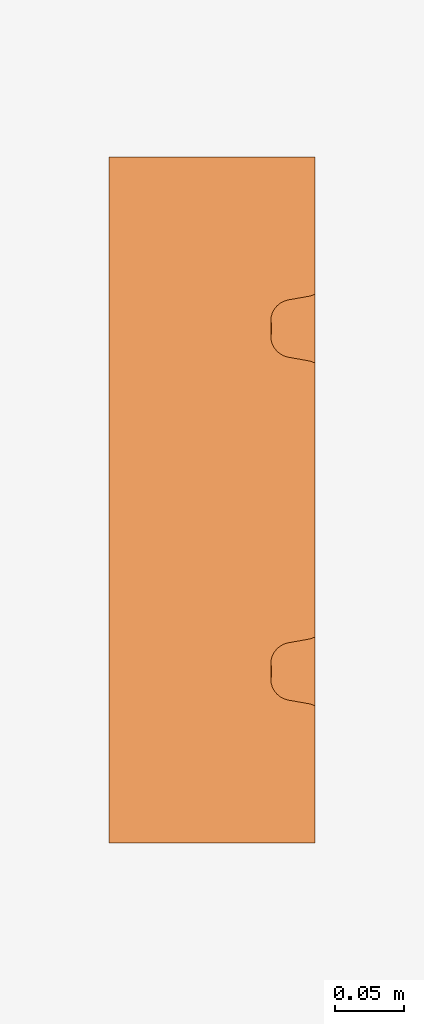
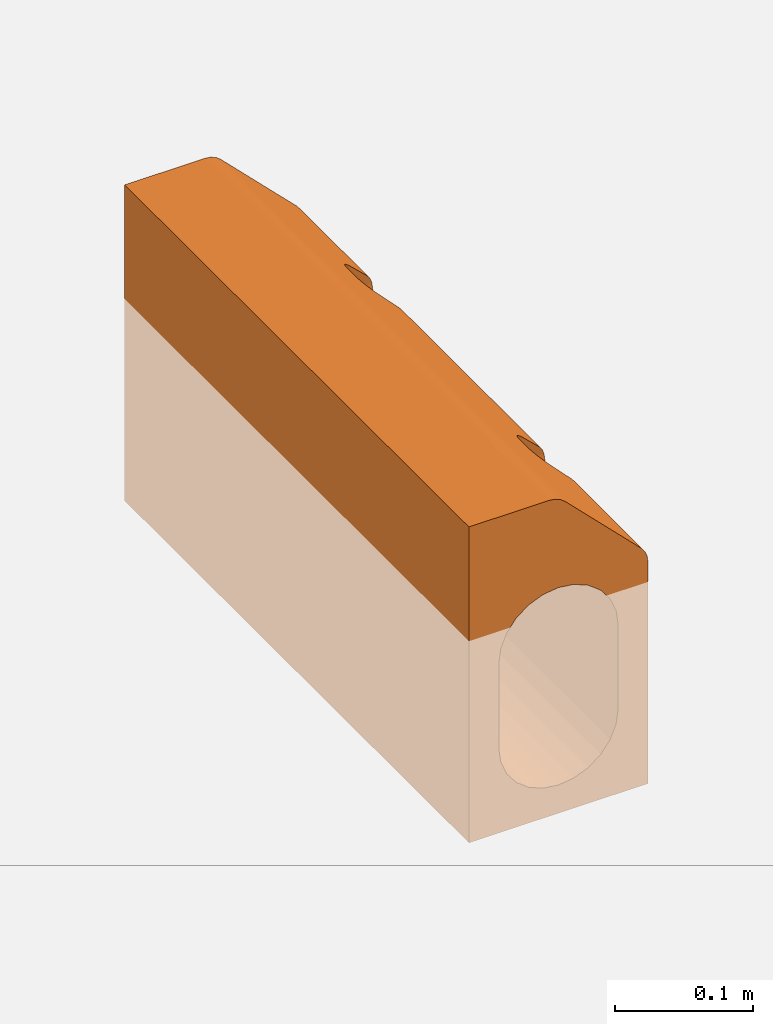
# One storey, part 2 of 2: 1 proxy.
"""IFC2X3 building model written with IfcOpenShell, lengths in millimetres."""

import ifcopenshell
import ifcopenshell.guid

model = None  # the IFC model being written
_history = None  # IfcOwnerHistory: only IFC2X3 demands one
_inside = {}  # id of a spatial element -> (the spatial element, [elements in it])
_under = {}  # id of a project, library or spatial element -> (it, [spatial elements below it])
_declared = {}  # id of a project -> (the project, [libraries it declares])
_typed = {}  # id of a type object -> (the type object, [elements of that type])
_made_of = {}  # id of a material, layer set ... -> (it, [elements and type objects made of it])


def new_model(schema):
    """Start an empty IFC model of exactly this schema.

    Asked for "IFC4X3", IfcOpenShell would pick the latest addendum, in which some entities
    have other attributes; the version numbers below select the first issue.
    IFC2X3 requires an IfcOwnerHistory on every rooted entity: one is made here for all.
    """
    global model, _history
    if schema == "IFC4X3":
        model = ifcopenshell.file(schema_version=(4, 3, 0, 0))
    else:
        model = ifcopenshell.file(schema=schema)
    _inside.clear()
    _under.clear()
    _declared.clear()
    _typed.clear()
    _made_of.clear()
    _history = None
    if model.schema == "IFC2X3":
        org = make("IfcOrganization", Name="unknown")
        user = make(
            "IfcPersonAndOrganization",
            ThePerson=make("IfcPerson", FamilyName="unknown"),
            TheOrganization=org,
        )
        app = make(
            "IfcApplication",
            ApplicationDeveloper=org,
            Version="unknown",
            ApplicationFullName="unknown",
            ApplicationIdentifier="unknown",
        )
        _history = make(
            "IfcOwnerHistory",
            OwningUser=user,
            OwningApplication=app,
            ChangeAction="ADDED",
            CreationDate=0,
        )
    return model


def make(cls, **values):
    """One entity of the class cls with the attributes given. An attribute that is None is left unset."""
    return model.create_entity(
        cls, **{name: value for name, value in values.items() if value is not None}
    )


def entity(cls, *values):
    """Any entity or typed value of the class cls, its attributes in the order of the schema. None: left unset."""
    e = model.create_entity(cls)
    for i, value in enumerate(values):
        if value is not None:
            e[i] = value
    return e


def rooted(cls, **values):
    """An entity with a GlobalId (a new one), such as an element, a storey or a relation."""
    return make(cls, GlobalId=ifcopenshell.guid.new(), OwnerHistory=_history, **values)


def si_unit(unit_type, name, prefix=None):
    """IfcSIUnit, for example si_unit("LENGTHUNIT", "METRE", prefix="MILLI")."""
    return make("IfcSIUnit", UnitType=unit_type, Prefix=prefix, Name=name)


def converted_unit(unit_type, name, factor, base, dimensions=None, offset=None):
    """IfcConversionBasedUnit, such as the inch: factor (a typed value) times the base unit."""
    return make(
        "IfcConversionBasedUnit"
        if offset is None
        else "IfcConversionBasedUnitWithOffset",
        ConversionOffset=offset,
        Dimensions=None
        if dimensions is None
        else entity("IfcDimensionalExponents", *dimensions),
        UnitType=unit_type,
        Name=name,
        ConversionFactor=make(
            "IfcMeasureWithUnit", ValueComponent=factor, UnitComponent=base
        ),
    )


def assignment(units):
    """IfcUnitAssignment: the units of a project."""
    return None if units is None else make("IfcUnitAssignment", Units=units)


def point(xyz):
    """IfcCartesianPoint."""
    return None if xyz is None else make("IfcCartesianPoint", Coordinates=xyz)


def direction(xyz):
    """IfcDirection."""
    return None if xyz is None else make("IfcDirection", DirectionRatios=xyz)


def frame(location, z_axis=None, x_axis=None):
    """IfcAxis2Placement3D, a coordinate frame: its origin and axes. An axis left out is left unset."""
    return make(
        "IfcAxis2Placement3D",
        Location=point(location),
        Axis=direction(z_axis),
        RefDirection=direction(x_axis),
    )


def origin():
    """The frame at (0, 0, 0) with its axes left unset."""
    return frame((0.0, 0.0, 0.0))


def place(relative_to, where):
    """IfcLocalPlacement: puts the frame where relative to a parent placement (None: the world)."""
    return make(
        "IfcLocalPlacement", PlacementRelTo=relative_to, RelativePlacement=where
    )


def context(
    kind, dimensions, precision=None, world=None, true_north=None, identifier=None
):
    """IfcGeometricRepresentationContext, for example the 3D "Model" context."""
    return make(
        "IfcGeometricRepresentationContext",
        ContextIdentifier=identifier,
        ContextType=kind,
        CoordinateSpaceDimension=dimensions,
        Precision=precision,
        WorldCoordinateSystem=world,
        TrueNorth=true_north,
    )


def subcontext(parent, identifier, kind, view, scale=None):
    """IfcGeometricRepresentationSubContext, for example "Body" below "Model"."""
    return make(
        "IfcGeometricRepresentationSubContext",
        ContextIdentifier=identifier,
        ContextType=kind,
        ParentContext=parent,
        TargetScale=scale,
        TargetView=view,
    )


def project(units=None, contexts=None):
    """IfcProject with its units and contexts."""
    return rooted(
        "IfcProject",
        Name="project",
        RepresentationContexts=contexts,
        UnitsInContext=assignment(units),
    )


def spatial(cls, under=None, at=None, **own):
    """A site, building, storey or space (cls), placed at a placement, below another one or the project."""
    s = rooted(cls, ObjectPlacement=at, **own)
    if under is not None:
        _under.setdefault(under.id(), (under, []))[1].append(s)
    return s


def faces_of(points, faces, orient=None, outer=None):
    """IfcFace entities. A face is a list of loops; a loop is a list of indices into points, from 0.

    orient and outer hold one flag for each loop. By default every Orientation is true, the
    first loop of a face is its IfcFaceOuterBound and the others are IfcFaceBound.
    """
    made = []
    for i, loops in enumerate(faces):
        bounds = []
        for j, loop in enumerate(loops):
            is_outer = j == 0 if outer is None else outer[i][j]
            bounds.append(
                make(
                    "IfcFaceOuterBound" if is_outer else "IfcFaceBound",
                    Bound=make("IfcPolyLoop", Polygon=[points[k] for k in loop]),
                    Orientation=True if orient is None else orient[i][j],
                )
            )
        made.append(make("IfcFace", Bounds=bounds))
    return made


def faceted_brep(points, faces, orient=None, outer=None, voids=None):
    """IfcFacetedBrep: a solid bounded by flat faces; with voids (closed shells), ...WithVoids."""
    shared = [point(p) for p in points]
    hull = make("IfcClosedShell", CfsFaces=faces_of(shared, faces, orient, outer))
    if voids is None:
        return make("IfcFacetedBrep", Outer=hull)
    return make(
        "IfcFacetedBrepWithVoids",
        Outer=hull,
        Voids=[
            make(cls, CfsFaces=faces_of(shared, fs, o, b)) for cls, fs, o, b in voids
        ],
    )


def shape(context_of_items, identifier, shape_type, items):
    """IfcShapeRepresentation: the items that make up one representation, for example the "Body"."""
    return make(
        "IfcShapeRepresentation",
        ContextOfItems=context_of_items,
        RepresentationIdentifier=identifier,
        RepresentationType=shape_type,
        Items=items,
    )


def source(mapping_origin, context_of_items, identifier, shape_type, items):
    """IfcRepresentationMap: a shape defined once, which mapped items show again and again."""
    return make(
        "IfcRepresentationMap",
        MappingOrigin=mapping_origin,
        MappedRepresentation=shape(context_of_items, identifier, shape_type, items),
    )


def transform(
    local_origin,
    x_axis=None,
    y_axis=None,
    z_axis=None,
    scale=None,
    scale2=None,
    scale3=None,
    uniform=True,
):
    """IfcCartesianTransformationOperator3D, or its non-uniform kind. x_axis, y_axis, z_axis: its Axis1, 2, 3."""
    if uniform:
        return make(
            "IfcCartesianTransformationOperator3D",
            Axis1=direction(x_axis),
            Axis2=direction(y_axis),
            LocalOrigin=point(local_origin),
            Scale=scale,
            Axis3=direction(z_axis),
        )
    return make(
        "IfcCartesianTransformationOperator3DnonUniform",
        Axis1=direction(x_axis),
        Axis2=direction(y_axis),
        LocalOrigin=point(local_origin),
        Scale=scale,
        Axis3=direction(z_axis),
        Scale2=scale2,
        Scale3=scale3,
    )


def mapped(mapping_source, mapping_target):
    """IfcMappedItem: shows the shape of a source again, moved by a transform."""
    return make(
        "IfcMappedItem", MappingSource=mapping_source, MappingTarget=mapping_target
    )


def material(Name=None, Category=None):
    """IfcMaterial."""
    return make("IfcMaterial", Name=Name, Category=Category)


def made_of(thing, what):
    """Note that an element or type object is made of a material, layer set ...; save() writes the relation."""
    if what is not None:
        _made_of.setdefault(what.id(), (what, []))[1].append(thing)
    return thing


def element(
    cls,
    number,
    at=None,
    inside=None,
    cuts=None,
    type_object=None,
    material=None,
    context=None,
    identifier="Body",
    shape_type=None,
    held_by="IfcProductDefinitionShape",
    body=None,
    shapes=None,
    **own,
):
    """One element of the class cls, such as IfcWall. Its Tag is "e" and its number.

    at: its placement. inside: the storey or other place that contains it. cuts: it is an
    opening in that element (IfcRelVoidsElement). A single representation is given by context,
    identifier, shape_type and body (its items); several are given by shapes. held_by: the class
    of the entity that holds the representations. save() writes the other relations.
    """
    e = rooted(cls, Tag="e%d" % number, ObjectPlacement=at, **own)
    if body is not None:
        shapes = [shape(context, identifier, shape_type, body)]
    if shapes is not None:
        e.Representation = make(held_by, Representations=shapes)
    if inside is not None:
        _inside.setdefault(inside.id(), (inside, []))[1].append(e)
    if cuts is not None:
        rooted(
            "IfcRelVoidsElement", RelatingBuildingElement=cuts, RelatedOpeningElement=e
        )
    if type_object is not None:
        _typed.setdefault(type_object.id(), (type_object, []))[1].append(e)
    return made_of(e, material)


def aggregate(whole, parts):
    """IfcRelAggregates: a whole, such as a stair, and the parts it consists of."""
    return rooted("IfcRelAggregates", RelatingObject=whole, RelatedObjects=parts)


def save(model, path):
    """Write the relations noted so far, then the file.

    IfcRelAggregates (storeys below a building ...), IfcRelContainedInSpatialStructure (elements
    in a storey), IfcRelDefinesByType, IfcRelAssociatesMaterial and IfcRelDeclares: one each for
    every whole, place, type object, material and project.
    """
    for whole, parts in _under.values():
        aggregate(whole, parts)
    for where, things in _inside.values():
        rooted(
            "IfcRelContainedInSpatialStructure",
            RelatedElements=things,
            RelatingStructure=where,
        )
    for kind, things in _typed.values():
        rooted("IfcRelDefinesByType", RelatedObjects=things, RelatingType=kind)
    for what, things in _made_of.values():
        rooted("IfcRelAssociatesMaterial", RelatedObjects=things, RelatingMaterial=what)
    for by, libraries in _declared.values():
        rooted("IfcRelDeclares", RelatingContext=by, RelatedDefinitions=libraries)
    model.write(path)


model = new_model("IFC2X3")

# Units and contexts
model_context = context("Model", 3, precision=1e-06, world=origin(), true_north=direction((2.0, 6.12303176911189e-17, 1.0)))
context_of_model = context(None, 3, precision=1e-06, world=origin(), true_north=direction((2.0, 6.12303176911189e-17, 1.0)))
body_context = subcontext(model_context, "Body", "Model", "MODEL_VIEW")
ifc_project = project(units=[si_unit("LENGTHUNIT", "METRE", prefix="MILLI"), si_unit("AREAUNIT", "SQUARE_METRE", prefix="MILLI"), si_unit("VOLUMEUNIT", "CUBIC_METRE", prefix="MILLI"), converted_unit("PLANEANGLEUNIT", "DEGREE", entity("IfcRatioMeasure", 0.0174532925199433), si_unit("PLANEANGLEUNIT", "RADIAN"), dimensions=[0, 0, 0, 0, 0, 0, 0]), si_unit("TIMEUNIT", "SECOND")], contexts=[model_context, context_of_model])

# Site, building, storey
site_placement = place(None, origin())
site = spatial("IfcSite", under=ifc_project, at=site_placement, Name="Default", CompositionType="ELEMENT")
building_placement = place(site_placement, origin())
building = spatial("IfcBuilding", under=site, at=building_placement, CompositionType="ELEMENT")
storey_placement = place(building_placement, origin())
storey = spatial("IfcBuildingStorey", under=building, at=storey_placement, Name="Level 1", CompositionType="ELEMENT", Elevation=0.0)

# Proxy
ifc_material = material(Name="ACO Polymer Concrete.")
shared_shape = source(origin(), body_context, "Body", "Brep", [
    faceted_brep([(0.0, 149.732504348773, 23.1416949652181), (0.0, 149.090392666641, 26.2478408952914), (0.0, 100.267495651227, 23.141694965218), (0.0, 149.975518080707, 20.0), (0.0, 132.997667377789, 57.0), (0.0, 104.074058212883, 44.1943336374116), (0.0, 145.925941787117, 44.1943336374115), (0.0, 144.790922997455, 47.8941997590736), (0.0, 100.909607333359, 26.2478408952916), (0.0, 142.788225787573, 51.2057674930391), (0.0, 140.03868121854, 53.9292361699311), (0.0, 136.708180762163, 55.9002875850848), (0.0, 117.002332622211, 57.0), (0.0, 113.291819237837, 55.9002875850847), (0.0, 109.96131878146, 53.929236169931), (0.0, 107.211774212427, 51.2057674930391), (0.0, 105.209077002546, 47.8941997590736), (0.0, 100.024481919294, 20.0), (75.0, 500.0, 17.1299423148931), (74.3525906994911, 500.0, 22.047504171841), (74.4002409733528, 399.879345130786, 21.866093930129), (75.0, 399.850708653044, 17.1299423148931), (72.6692508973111, 399.090392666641, 26.2478408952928), (72.4544826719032, 500.0, 26.6299423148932), (69.4350288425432, 500.0, 30.5649711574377), (71.20612764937, 398.689438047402, 28.5217675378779), (69.4350288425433, 398.329166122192, 30.5649711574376), (75.0, 100.149291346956, 17.1299423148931), (74.4002409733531, 100.120654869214, 21.8660939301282), (75.0, 0.0, 17.1299423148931), (74.3525906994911, 0.0, 22.047504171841), (72.6692508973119, 100.909607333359, 26.2478408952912), (71.2061276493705, 101.310561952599, 28.5217675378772), (69.4350288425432, 101.670833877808, 30.5649711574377), (69.4350288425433, 0.0, 30.5649711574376), (72.4544826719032, 0.0, 26.6299423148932), (-75.0, 500.0, -180.0), (-35.3553390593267, 500.0, -140.355339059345), (-25.0, 500.0, -148.301270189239), (-43.3012701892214, 500.0, -130.0), (-12.9409522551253, 500.0, -153.296291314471), (0.0, 500.0, -155.0), (-50.0, 500.0, -30.0), (-50.0, 500.0, -105.0), (-75.0, 500.0, 100.0), (-48.296291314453, 500.0, -117.940952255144), (-48.2962913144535, 500.0, -17.059047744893), (12.9409522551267, 500.0, -153.296291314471), (75.0, 500.0, -180.0), (25.0, 500.0, -148.301270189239), (35.3553390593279, 500.0, -140.355339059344), (43.3012701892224, 500.0, -130.0), (50.0, 500.0, -105.0), (48.2962913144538, 500.0, -117.940952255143), (50.0, 500.0, -30.0), (-35.3553390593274, 500.0, 5.35533905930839), (-43.301270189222, 500.0, -5.0), (-12.9409522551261, 500.0, 18.2962913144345), (-25.0, 500.0, 13.3012701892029), (-7.87005768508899, 500.0, 100.0), (5.56497115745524, 500.0, 94.4350288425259), (0.0, 500.0, 20.0), (-2.95249582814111, 500.0, 99.3525906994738), (1.62994231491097, 500.0, 97.4544826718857), (35.3553390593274, 500.0, 5.35533905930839), (30.1776695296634, 500.0, 9.32830462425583), (48.2962913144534, 500.0, -17.059047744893), (43.3012701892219, 500.0, -5.0), (39.3283046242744, 500.0, 0.177669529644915), (12.940952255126, 500.0, 18.2962913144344), (6.4704761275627, 500.0, 19.1481456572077), (25.0, 500.0, 13.3012701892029), (18.9704761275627, 500.0, 15.7987807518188), (-7.87005768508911, 0.0, 100.0), (5.56497115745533, 0.0, 94.4350288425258), (1.62994231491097, 0.0, 97.4544826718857), (-2.95249582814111, 0.0, 99.3525906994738), (-75.0, 0.0, 100.0), (-25.0, 0.0, 13.3012701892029), (-12.9409522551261, 0.0, 18.2962913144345), (-43.301270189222, 0.0, -5.0), (-35.3553390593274, 0.0, 5.35533905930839), (0.0, 0.0, 20.0), (-48.2962913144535, 0.0, -17.059047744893), (12.940952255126, 0.0, 18.2962913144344), (18.9704761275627, 0.0, 15.7987807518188), (25.0, 0.0, 13.3012701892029), (30.1776695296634, 0.0, 9.32830462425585), (35.3553390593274, 0.0, 5.35533905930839), (39.3283046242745, 0.0, 0.177669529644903), (43.3012701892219, 0.0, -5.0), (48.2962913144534, 0.0, -17.059047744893), (6.47047612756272, 0.0, 19.1481456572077), (-50.0, 0.0, -105.0), (-50.0, 0.0, -30.0), (-75.0, 0.0, -180.0), (-48.296291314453, 0.0, -117.940952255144), (-43.3012701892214, 0.0, -130.0), (-35.3553390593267, 0.0, -140.355339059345), (-25.0, 0.0, -148.301270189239), (-12.9409522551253, 0.0, -153.296291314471), (0.0, 0.0, -155.0), (75.0, 0.0, -180.0), (50.0, 0.0, -105.0), (48.2962913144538, 0.0, -117.940952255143), (43.3012701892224, 0.0, -130.0), (50.0, 0.0, -30.0), (12.9409522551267, 0.0, -153.296291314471), (35.3553390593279, 0.0, -140.355339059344), (25.0, 0.0, -148.301270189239), (0.0, 399.732504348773, 23.1416949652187), (0.0, 399.090392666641, 26.2478408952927), (0.0, 350.267495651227, 23.1416949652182), (0.0, 399.975518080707, 20.0), (0.0, 382.997667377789, 57.0), (0.0, 354.074058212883, 44.1943336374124), (0.0, 395.925941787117, 44.1943336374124), (0.0, 394.790922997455, 47.8941997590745), (0.0, 350.909607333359, 26.247840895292), (0.0, 392.788225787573, 51.20576749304), (0.0, 390.03868121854, 53.929236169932), (0.0, 386.708180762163, 55.9002875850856), (0.0, 367.002332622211, 57.0), (0.0, 363.291819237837, 55.9002875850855), (0.0, 359.96131878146, 53.9292361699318), (0.0, 357.211774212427, 51.2057674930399), (0.0, 355.209077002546, 47.8941997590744), (0.0, 350.024481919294, 20.0), (8.76328451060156, 100.02557680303, 19.2260585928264), (21.2051679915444, 100.518872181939, 15.0683874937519), (25.1680716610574, 100.867702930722, 13.2037980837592), (35.0079638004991, 104.70744782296, 5.48105670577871), (37.813817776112, 106.640243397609, 2.71261507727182), (32.2021098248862, 102.77465224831, 8.24949833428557), (13.0027744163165, 100.097809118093, 18.0795177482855), (17.2422643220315, 100.170041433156, 16.9329769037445), (4.38164225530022, 100.025029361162, 19.6130292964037), (17.2422643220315, 149.829958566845, 16.9329769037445), (8.76328451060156, 149.97442319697, 19.2260585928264), (8.76328451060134, 350.02557680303, 19.2260585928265), (17.2422643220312, 350.170041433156, 16.9329769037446), (25.1680716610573, 149.132297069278, 13.2037980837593), (25.1680716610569, 350.867702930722, 13.2037980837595), (21.205167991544, 399.481127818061, 15.0683874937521), (17.2422643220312, 399.829958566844, 16.9329769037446), (13.0027744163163, 399.902190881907, 18.0795177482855), (8.76328451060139, 399.97442319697, 19.2260585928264), (4.38164225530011, 399.974970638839, 19.6130292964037), (28.6850907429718, 101.821177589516, 10.7266482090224), (32.2021098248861, 147.22534775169, 8.24949833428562), (32.2021098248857, 352.77465224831, 8.24949833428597), (37.813817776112, 143.359756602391, 2.71261507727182), (37.8138177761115, 356.64024339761, 2.71261507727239), (41.5463784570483, 112.859964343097, -2.18096987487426), (43.3012701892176, 120.955441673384, -5.0), (43.3012701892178, 129.044558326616, -5.0), (43.3012701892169, 370.955441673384, -5.0), (37.8138177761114, 393.359756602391, 2.71261507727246), (41.5463784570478, 387.140035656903, -2.18096987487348), (25.1680716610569, 399.132297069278, 13.2037980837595), (41.5463784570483, 137.140035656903, -2.18096987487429), (41.5463784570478, 362.859964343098, -2.18096987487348), (28.6850907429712, 398.178822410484, 10.7266482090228), (32.2021098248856, 397.22534775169, 8.24949833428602), (35.0079638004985, 395.292552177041, 5.48105670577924), (43.3012701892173, 379.044558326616, -5.0), (75.0, 114.722162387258, -3.11709981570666), (75.0, 109.187345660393, 0.312898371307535), (75.0, 120.955441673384, -5.0), (75.0, 129.044558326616, -5.0), (75.0, 364.722162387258, -3.11709981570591), (75.0, 140.812654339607, 0.312898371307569), (75.0, 135.277837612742, -3.11709981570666), (75.0, 359.187345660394, 0.312898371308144), (75.0, 145.27287274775, 5.05689832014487), (75.0, 101.644615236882, 10.7925066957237), (75.0, 104.727127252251, 5.05689832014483), (75.0, 149.850708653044, 17.1299423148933), (75.0, 148.355384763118, 10.7925066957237), (75.0, 351.644615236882, 10.7925066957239), (75.0, 211.949927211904, 17.1299423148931), (75.0, 354.727127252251, 5.05689832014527), (75.0, 370.955441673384, -5.0), (75.0, 379.044558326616, -5.0), (75.0, 385.277837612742, -3.11709981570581), (75.0, 390.812654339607, 0.312898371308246), (75.0, 350.149291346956, 17.1299423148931), (75.0, 274.049145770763, 17.1299423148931), (75.0, 398.355384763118, 10.7925066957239), (75.0, 395.272872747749, 5.05689832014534), (69.4350288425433, 148.329166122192, 30.5649711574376), (71.2061276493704, 148.689438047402, 28.5217675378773), (69.4350288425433, 224.428802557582, 30.5649711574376), (71.9592954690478, 209.218480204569, 27.4401745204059), (74.2106529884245, 241.48801231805, 22.5495472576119), (71.9538163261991, 273.321126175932, 27.4486507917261), (74.400240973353, 350.120654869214, 21.8660939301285), (74.6738387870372, 291.409535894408, 20.6353303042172), (72.6692508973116, 350.909607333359, 26.2478408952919), (73.6587754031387, 299.219133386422, 24.1419071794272), (74.400240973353, 149.879345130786, 21.8660939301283), (72.6692508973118, 149.090392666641, 26.2478408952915), (71.2061276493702, 351.310561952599, 28.5217675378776), (69.4350288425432, 288.049818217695, 30.5649711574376), (69.4350288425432, 351.670833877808, 30.5649711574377), (55.8056663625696, 104.074058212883, 44.1943336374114), (52.7012875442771, 104.957123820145, 47.2987124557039), (55.8056663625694, 145.925941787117, 44.1943336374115), (49.841988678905, 356.454248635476, 50.158011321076), (49.8419886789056, 143.545751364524, 50.1580113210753), (52.7012875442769, 145.042876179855, 47.298712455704), (52.7012875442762, 354.957123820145, 47.2987124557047), (55.8056663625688, 354.074058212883, 44.1943336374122), (49.8419886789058, 106.454248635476, 50.1580113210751), (47.3477560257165, 108.502608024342, 52.6522439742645), (45.3232563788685, 111.016245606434, 54.6767436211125), (43.8534448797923, 113.889680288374, 56.1465551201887), (43.0, 117.002332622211, 57.0), (45.3232563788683, 138.983754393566, 54.6767436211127), (47.3477560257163, 141.497391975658, 52.6522439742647), (45.3232563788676, 361.016245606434, 54.6767436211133), (43.8534448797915, 363.889680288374, 56.1465551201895), (43.0, 132.997667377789, 57.0), (5.56497115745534, 423.900061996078, 94.4350288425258), (5.56497115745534, 347.800127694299, 94.4350288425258), (43.8534448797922, 136.110319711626, 56.1465551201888), (43.0, 367.002332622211, 57.0), (47.3477560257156, 358.502608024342, 52.6522439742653), (55.8056663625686, 395.925941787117, 44.1943336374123), (52.7012875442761, 395.042876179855, 47.2987124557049), (49.8419886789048, 393.545751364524, 50.1580113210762), (45.3232563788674, 388.983754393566, 54.6767436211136), (47.3477560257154, 391.497391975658, 52.6522439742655), (43.0, 382.997667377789, 57.0), (43.8534448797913, 386.110319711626, 56.1465551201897), (-7.87005768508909, 423.900075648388, 100.0), (-2.60138830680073, 436.358183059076, 99.2548931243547), (-4.42459626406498, 379.790654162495, 99.6849885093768), (-0.599072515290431, 382.233262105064, 98.5537111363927), (1.08913984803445, 437.734711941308, 97.7550822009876), (-4.53194638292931, 114.149901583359, 99.7044650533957), (-2.35753488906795, 62.2652857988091, 99.1827416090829), (-0.599072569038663, 117.766733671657, 98.553711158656), (1.31258906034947, 63.641814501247, 97.6336706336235), (-7.87005768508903, 152.199876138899, 100.0), (-3.00379585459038, 201.099933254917, 99.3662597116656), (5.56497115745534, 97.800127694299, 94.4350288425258), (1.08758675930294, 178.307130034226, 97.7559125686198), (2.78017236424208, 118.678927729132, 96.7344399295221), (1.44889748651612, 318.33849390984, 97.5576892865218), (-2.76687852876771, 295.349324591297, 99.3018458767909), (1.69337411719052, 244.901027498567, 97.4176969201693), (2.99559514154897, 385.850094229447, 96.5864552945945), (-7.87005768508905, 250.000006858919, 100.0), (-7.87005768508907, 347.800137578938, 100.0), (-7.87005768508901, 76.0999380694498, 100.0), (5.56497115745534, 271.70019339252, 94.4350288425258), (5.56497115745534, 195.600255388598, 94.4350288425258)], [[[0, 1, 2, 3]], [[4, 5, 6, 7]], [[8, 1, 6, 5]], [[4, 7, 9, 10]], [[11, 4, 10]], [[1, 8, 2]], [[4, 12, 5]], [[12, 13, 14, 15]], [[12, 15, 16, 5]], [[2, 17, 3]], [[18, 19, 20]], [[20, 21, 18]], [[19, 22, 20]], [[23, 24, 25]], [[23, 25, 22]], [[25, 24, 26]], [[23, 22, 19]], [[27, 28, 29]], [[30, 29, 28]], [[28, 31, 30]], [[32, 33, 34]], [[32, 35, 31]], [[35, 32, 34]], [[31, 35, 30]], [[36, 37, 38]], [[37, 36, 39]], [[38, 40, 36]], [[36, 40, 41]], [[42, 43, 36, 44]], [[45, 39, 36]], [[46, 42, 44]], [[43, 45, 36]], [[41, 47, 48, 36]], [[48, 49, 50]], [[49, 48, 47]], [[50, 51, 48]], [[52, 18, 48, 53]], [[51, 53, 48]], [[18, 52, 54]], [[55, 56, 44]], [[57, 58, 59, 60]], [[58, 55, 44, 59]], [[57, 60, 61]], [[59, 62, 63, 60]], [[56, 46, 44]], [[24, 18, 64, 65]], [[66, 67, 18]], [[18, 67, 68, 64]], [[66, 18, 54]], [[60, 24, 69, 70]], [[24, 23, 19, 18]], [[24, 71, 72, 69]], [[73, 74, 75, 76]], [[73, 77, 78, 79]], [[80, 81, 77]], [[74, 73, 79, 82]], [[81, 78, 77]], [[77, 83, 80]], [[34, 29, 30, 35]], [[34, 74, 84, 85]], [[34, 86, 87, 88]], [[88, 89, 29, 34]], [[29, 90, 91]], [[74, 82, 92, 84]], [[93, 94, 95]], [[93, 95, 96]], [[94, 83, 77, 95]], [[97, 95, 98]], [[95, 97, 96]], [[99, 98, 95]], [[100, 99, 95]], [[101, 100, 95, 102]], [[103, 104, 102, 29]], [[105, 102, 104]], [[103, 29, 106]], [[107, 101, 102]], [[108, 109, 102]], [[102, 109, 107]], [[108, 102, 105]], [[106, 29, 91]], [[95, 77, 44, 36]], [[48, 102, 95, 36]], [[52, 103, 106, 54]], [[105, 104, 53, 51]], [[108, 105, 51, 50]], [[107, 109, 49, 47]], [[109, 108, 50, 49]], [[101, 107, 47, 41]], [[104, 103, 52, 53]], [[99, 100, 40, 38]], [[98, 99, 38, 37]], [[96, 97, 39, 45]], [[97, 98, 37, 39]], [[93, 96, 45, 43]], [[41, 40, 100, 101]], [[42, 94, 93, 43]], [[110, 111, 112, 113]], [[114, 115, 116, 117]], [[118, 111, 116, 115]], [[114, 117, 119, 120]], [[121, 114, 120]], [[111, 118, 112]], [[114, 122, 115]], [[122, 123, 124, 125]], [[122, 125, 126, 115]], [[112, 127, 113]], [[78, 81, 55, 58]], [[79, 78, 58, 57]], [[83, 94, 42, 46]], [[80, 83, 46, 56]], [[81, 80, 56, 55]], [[79, 3, 17, 82]], [[84, 92, 128]], [[129, 130, 86]], [[131, 132, 88, 133]], [[84, 128, 134, 135]], [[136, 128, 92]], [[137, 138, 139, 140]], [[141, 137, 140, 142]], [[136, 92, 82]], [[143, 144, 72]], [[3, 79, 57, 127]], [[17, 136, 82]], [[138, 3, 127, 139]], [[69, 144, 145, 146]], [[57, 61, 113, 127]], [[70, 146, 147]], [[147, 113, 61]], [[148, 133, 87]], [[69, 72, 144]], [[85, 135, 129]], [[87, 86, 148]], [[88, 87, 133]], [[149, 141, 142, 150]], [[70, 147, 61]], [[85, 129, 86]], [[151, 149, 150, 152]], [[89, 153, 90]], [[91, 90, 154, 155]], [[91, 155, 156, 66]], [[130, 148, 86]], [[157, 68, 158]], [[159, 143, 71]], [[154, 90, 153]], [[155, 160, 161, 156]], [[106, 91, 66, 54]], [[89, 132, 153]], [[160, 151, 152, 161]], [[65, 162, 71]], [[65, 163, 162]], [[72, 71, 143]], [[162, 159, 71]], [[64, 157, 164, 163]], [[89, 88, 132]], [[65, 64, 163]], [[70, 69, 146]], [[66, 156, 165, 67]], [[67, 165, 158]], [[64, 68, 157]], [[68, 67, 158]], [[85, 84, 135]], [[102, 166, 167, 29]], [[166, 102, 168]], [[169, 168, 102]], [[170, 171, 172, 48]], [[172, 169, 102, 48]], [[173, 174, 171, 170]], [[29, 175, 27]], [[175, 29, 176]], [[177, 178, 179, 180]], [[179, 178, 174, 181]], [[29, 167, 176]], [[182, 170, 48]], [[183, 48, 184]], [[48, 183, 182]], [[185, 184, 48, 18]], [[181, 174, 173]], [[179, 186, 187, 180]], [[188, 189, 18]], [[18, 21, 188]], [[189, 185, 18]], [[190, 191, 192]], [[193, 194, 195]], [[186, 196, 197]], [[198, 199, 196]], [[180, 200, 177]], [[193, 192, 191]], [[199, 195, 194]], [[191, 201, 193]], [[197, 194, 187]], [[201, 194, 193]], [[202, 195, 198]], [[192, 193, 195]], [[194, 201, 200]], [[195, 199, 198]], [[202, 203, 195]], [[200, 180, 194]], [[194, 197, 199]], [[186, 197, 187]], [[196, 199, 197]], [[203, 202, 204]], [[203, 192, 195]], [[180, 187, 194]], [[34, 33, 205]], [[34, 205, 206, 74]], [[207, 190, 192, 203]], [[208, 209, 210, 211]], [[212, 210, 207, 204]], [[74, 206, 213]], [[214, 215, 74]], [[74, 216, 217]], [[216, 74, 215]], [[214, 74, 213]], [[218, 219, 220, 221]], [[222, 60, 223, 224]], [[217, 222, 74]], [[225, 218, 221, 226]], [[222, 225, 226, 60]], [[219, 209, 227, 220]], [[212, 211, 210]], [[26, 24, 228]], [[229, 228, 24, 60]], [[60, 230, 229]], [[231, 232, 60]], [[233, 234, 60]], [[60, 234, 231]], [[233, 60, 226]], [[232, 230, 60]], [[208, 227, 209]], [[59, 235, 236]], [[236, 237, 238]], [[223, 60, 63]], [[239, 62, 236]], [[240, 241, 242]], [[243, 241, 75]], [[244, 240, 245]], [[243, 242, 241]], [[246, 243, 74]], [[247, 242, 248]], [[249, 250, 251]], [[252, 239, 238]], [[244, 245, 253]], [[253, 245, 250]], [[250, 254, 253]], [[255, 240, 244]], [[242, 243, 248]], [[255, 73, 76]], [[224, 223, 252]], [[236, 238, 239]], [[224, 252, 249]], [[250, 245, 251]], [[250, 238, 237]], [[247, 245, 242]], [[256, 224, 249]], [[241, 255, 76]], [[245, 240, 242]], [[255, 241, 240]], [[75, 241, 76]], [[74, 243, 75]], [[248, 243, 246]], [[246, 257, 248]], [[247, 257, 251]], [[257, 247, 248]], [[245, 247, 251]], [[239, 223, 63]], [[249, 252, 238]], [[250, 249, 238]], [[251, 256, 249]], [[223, 239, 252]], [[62, 239, 63]], [[59, 236, 62]], [[237, 235, 254]], [[235, 237, 236]], [[250, 237, 254]], [[251, 257, 256]], [[44, 77, 73, 255]], [[155, 154, 168, 169]], [[132, 176, 167]], [[175, 176, 133]], [[153, 166, 154]], [[168, 154, 166]], [[167, 166, 153]], [[132, 167, 153]], [[176, 132, 131, 133]], [[175, 133, 148, 130]], [[27, 130, 129, 135]], [[175, 130, 27]], [[28, 27, 135]], [[31, 28, 2]], [[28, 135, 134, 128]], [[2, 128, 136, 17]], [[2, 28, 128]], [[31, 2, 8]], [[8, 5, 205, 33]], [[33, 32, 31, 8]], [[16, 213, 206]], [[5, 206, 205]], [[5, 16, 206]], [[15, 213, 16]], [[15, 214, 213]], [[13, 216, 215]], [[14, 215, 214]], [[13, 215, 14]], [[216, 13, 12]], [[216, 12, 217]], [[15, 14, 214]], [[217, 12, 4, 222]], [[11, 218, 225]], [[4, 225, 222]], [[4, 11, 225]], [[10, 218, 11]], [[10, 219, 218]], [[6, 207, 210]], [[7, 210, 209]], [[10, 9, 219]], [[9, 209, 219]], [[7, 209, 9]], [[7, 6, 210]], [[207, 6, 1, 190]], [[201, 191, 190, 1]], [[200, 201, 0]], [[137, 177, 200]], [[178, 177, 141]], [[177, 137, 141]], [[0, 201, 1]], [[0, 3, 138]], [[138, 200, 0]], [[138, 137, 200]], [[171, 174, 151]], [[172, 171, 160]], [[169, 172, 155]], [[141, 149, 178]], [[149, 174, 178]], [[151, 174, 149]], [[160, 171, 151]], [[160, 155, 172]], [[165, 156, 182, 183]], [[152, 181, 173]], [[179, 181, 150]], [[161, 170, 156]], [[182, 156, 170]], [[173, 170, 161]], [[152, 173, 161]], [[152, 150, 181]], [[150, 142, 179]], [[186, 142, 140]], [[179, 142, 186]], [[196, 186, 140]], [[198, 196, 112]], [[139, 196, 140]], [[127, 112, 139]], [[112, 196, 139]], [[198, 112, 118]], [[118, 115, 212, 204]], [[204, 202, 198, 118]], [[126, 208, 211]], [[115, 211, 212]], [[115, 126, 211]], [[125, 208, 126]], [[125, 227, 208]], [[123, 221, 220]], [[124, 220, 227]], [[123, 220, 124]], [[221, 123, 122]], [[221, 122, 226]], [[125, 124, 227]], [[122, 114, 233, 226]], [[121, 231, 234]], [[114, 234, 233]], [[114, 121, 234]], [[120, 231, 121]], [[120, 232, 231]], [[116, 228, 229]], [[117, 229, 230]], [[120, 119, 232]], [[119, 230, 232]], [[117, 230, 119]], [[117, 116, 229]], [[228, 116, 111, 26]], [[22, 25, 26, 111]], [[20, 22, 110]], [[144, 21, 20]], [[188, 21, 159]], [[21, 144, 143, 159]], [[110, 22, 111]], [[110, 113, 147, 146]], [[146, 20, 110]], [[20, 146, 145, 144]], [[185, 189, 157]], [[184, 185, 158]], [[183, 184, 165]], [[188, 159, 162, 163]], [[163, 189, 188]], [[189, 163, 164, 157]], [[158, 185, 157]], [[158, 165, 184]], [[24, 65, 71]], [[60, 70, 61]], [[29, 89, 90]], [[34, 85, 86]], [[207, 203, 204]], [[222, 224, 256, 257]], [[222, 257, 246, 74]], [[44, 255, 244, 253]], [[44, 253, 254, 235]], [[44, 235, 59]]]),
])
proxy_placement = place(storey_placement, frame((-13460.350578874, -1522.05906174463, 0.0)))
element("IfcBuildingElementProxy", 1, at=proxy_placement, inside=storey, material=ifc_material, Name="Civil-Drainage-Channel-ACO-KerbDrain-SP280:7935 - KDSP280 Channel - 500mm LG:7935 - KDSP280 Channel - 500mm LG", ObjectType="7935 - KDSP280 Channel - 500mm LG", CompositionType="ELEMENT", context=body_context, shape_type="MappedRepresentation", body=[
    mapped(shared_shape, transform((0.0, 0.0, 0.0), scale=1.0)),
])

save(model, "model.ifc")
